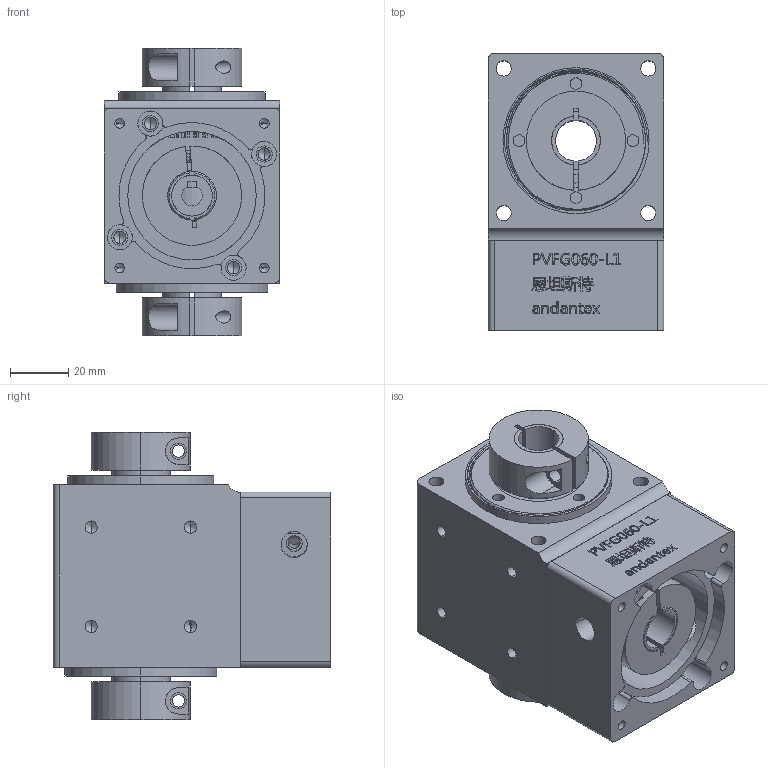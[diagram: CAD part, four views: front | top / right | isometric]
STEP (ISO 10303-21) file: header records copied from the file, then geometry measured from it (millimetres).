
FILE_DESCRIPTION (( 'STEP AP203' ), '1' );
FILE_NAME ('PVFG060-L1ANDATNEX.STEP', '2021-08-30T03:13:57', ( 'Windows User' ), ( 'P R C' ), 'SwSTEP 2.0', 'SolidWorks 2016', '' );
FILE_SCHEMA (( 'CONFIG_CONTROL_DESIGN' ));
Length unit declared in the file: millimetre
Products named in the file (10): tapered roller bearings gb_Rolling bearings 30204 GB 297-94; 20-32-5蚐猾; 60邧謂怀堤粣; 褲极; PVFG060-L1ANDATNEX; 綴楊擘1; 標杶; 蹟譫; 输入轴; deep groove ball bearings gb_Rolling bearings 6003 GB 276-94
Assembly tree (14 placements, depth 2):
  PVFG060-L1ANDATNEX
    褲极
    綴楊擘1
    標杶  x3
    蹟譫  x2
    输入轴
    deep groove ball bearings gb_Rolling bearings 6003 GB 276-94
    tapered roller bearings gb_Rolling bearings 30204 GB 297-94  x2
    20-32-5蚐猾  x2
    60邧謂怀堤粣
Bounding box: 60 x 95 x 98.5 mm (x, y, z)
Volume: 265095.2 mm3; surface area: 130115.7 mm2
Topology: 24 solids, 24 shells, 1467 faces, 4498 edges, 2946 vertices
Faces by surface type: plane 553, bspline 479, cylinder 286, cone 149
Entity records: 58136 total; most frequent: CARTESIAN_POINT 27464, ORIENTED_EDGE 7074, DIRECTION 4965, EDGE_CURVE 3537, VERTEX_POINT 2339, AXIS2_PLACEMENT_3D 1759, VECTOR 1447, LINE 1447
